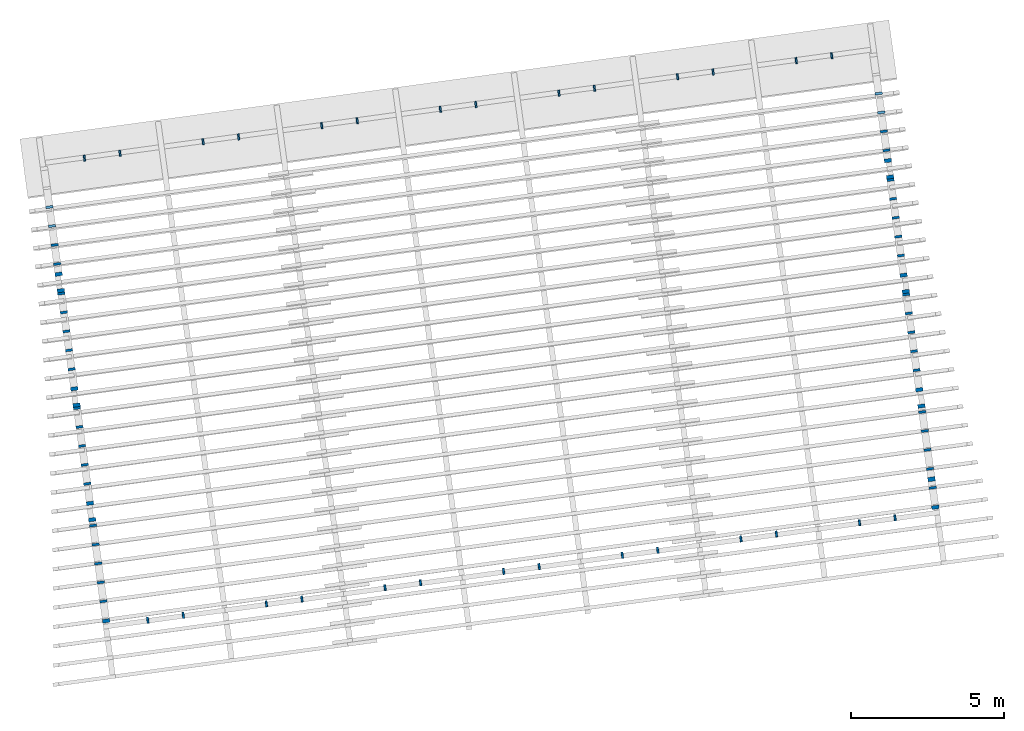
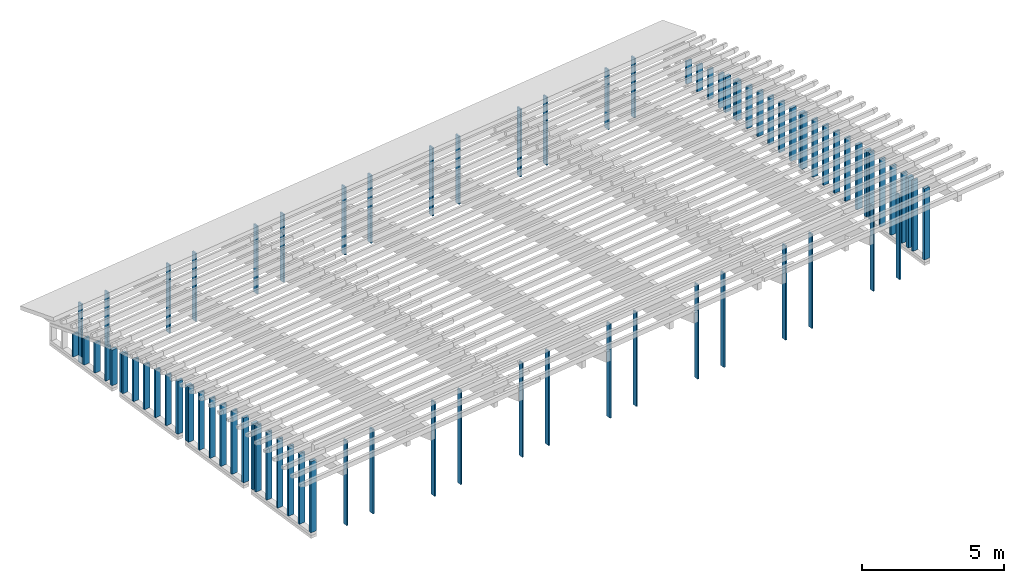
# One storey, part 1 of 18: 81 columns.
"""IFC2X3 building model written with IfcOpenShell, lengths in metres."""

import ifcopenshell
import ifcopenshell.guid

model = None  # the IFC model being written
_history = None  # IfcOwnerHistory: only IFC2X3 demands one
_inside = {}  # id of a spatial element -> (the spatial element, [elements in it])
_under = {}  # id of a project, library or spatial element -> (it, [spatial elements below it])
_declared = {}  # id of a project -> (the project, [libraries it declares])
_typed = {}  # id of a type object -> (the type object, [elements of that type])
_made_of = {}  # id of a material, layer set ... -> (it, [elements and type objects made of it])


def new_model(schema):
    """Start an empty IFC model of exactly this schema.

    Asked for "IFC4X3", IfcOpenShell would pick the latest addendum, in which some entities
    have other attributes; the version numbers below select the first issue.
    IFC2X3 requires an IfcOwnerHistory on every rooted entity: one is made here for all.
    """
    global model, _history
    if schema == "IFC4X3":
        model = ifcopenshell.file(schema_version=(4, 3, 0, 0))
    else:
        model = ifcopenshell.file(schema=schema)
    _inside.clear()
    _under.clear()
    _declared.clear()
    _typed.clear()
    _made_of.clear()
    _history = None
    if model.schema == "IFC2X3":
        org = make("IfcOrganization", Name="unknown")
        user = make(
            "IfcPersonAndOrganization",
            ThePerson=make("IfcPerson", FamilyName="unknown"),
            TheOrganization=org,
        )
        app = make(
            "IfcApplication",
            ApplicationDeveloper=org,
            Version="unknown",
            ApplicationFullName="unknown",
            ApplicationIdentifier="unknown",
        )
        _history = make(
            "IfcOwnerHistory",
            OwningUser=user,
            OwningApplication=app,
            ChangeAction="ADDED",
            CreationDate=0,
        )
    return model


def make(cls, **values):
    """One entity of the class cls with the attributes given. An attribute that is None is left unset."""
    return model.create_entity(
        cls, **{name: value for name, value in values.items() if value is not None}
    )


def entity(cls, *values):
    """Any entity or typed value of the class cls, its attributes in the order of the schema. None: left unset."""
    e = model.create_entity(cls)
    for i, value in enumerate(values):
        if value is not None:
            e[i] = value
    return e


def rooted(cls, **values):
    """An entity with a GlobalId (a new one), such as an element, a storey or a relation."""
    return make(cls, GlobalId=ifcopenshell.guid.new(), OwnerHistory=_history, **values)


def si_unit(unit_type, name, prefix=None):
    """IfcSIUnit, for example si_unit("LENGTHUNIT", "METRE", prefix="MILLI")."""
    return make("IfcSIUnit", UnitType=unit_type, Prefix=prefix, Name=name)


def converted_unit(unit_type, name, factor, base, dimensions=None, offset=None):
    """IfcConversionBasedUnit, such as the inch: factor (a typed value) times the base unit."""
    return make(
        "IfcConversionBasedUnit"
        if offset is None
        else "IfcConversionBasedUnitWithOffset",
        ConversionOffset=offset,
        Dimensions=None
        if dimensions is None
        else entity("IfcDimensionalExponents", *dimensions),
        UnitType=unit_type,
        Name=name,
        ConversionFactor=make(
            "IfcMeasureWithUnit", ValueComponent=factor, UnitComponent=base
        ),
    )


def derived_unit(unit_type, elements):
    """IfcDerivedUnit: a product of units, each with its exponent."""
    return make(
        "IfcDerivedUnit",
        Elements=[
            make("IfcDerivedUnitElement", Unit=unit, Exponent=power)
            for unit, power in elements
        ],
        UnitType=unit_type,
    )


def money_unit(currency):
    """IfcMonetaryUnit."""
    return make("IfcMonetaryUnit", Currency=currency)


def assignment(units):
    """IfcUnitAssignment: the units of a project."""
    return None if units is None else make("IfcUnitAssignment", Units=units)


def point(xyz):
    """IfcCartesianPoint."""
    return None if xyz is None else make("IfcCartesianPoint", Coordinates=xyz)


def direction(xyz):
    """IfcDirection."""
    return None if xyz is None else make("IfcDirection", DirectionRatios=xyz)


def frame(location, z_axis=None, x_axis=None):
    """IfcAxis2Placement3D, a coordinate frame: its origin and axes. An axis left out is left unset."""
    return make(
        "IfcAxis2Placement3D",
        Location=point(location),
        Axis=direction(z_axis),
        RefDirection=direction(x_axis),
    )


def frame_2d(location, x_axis=None):
    """IfcAxis2Placement2D, a coordinate frame in the plane: its origin and x axis."""
    return make(
        "IfcAxis2Placement2D", Location=point(location), RefDirection=direction(x_axis)
    )


def origin_with_axes():
    """The frame at (0, 0, 0) with the z axis (0, 0, 1) and the x axis (1, 0, 0) written out."""
    return frame((0.0, 0.0, 0.0), z_axis=(0.0, 0.0, 1.0), x_axis=(1.0, 0.0, 0.0))


def origin_2d_with_axis():
    """The frame at (0, 0) in the plane with the x axis (1, 0) written out."""
    return frame_2d((0.0, 0.0), x_axis=(1.0, 0.0))


def place(relative_to, where):
    """IfcLocalPlacement: puts the frame where relative to a parent placement (None: the world)."""
    return make(
        "IfcLocalPlacement", PlacementRelTo=relative_to, RelativePlacement=where
    )


def context(
    kind, dimensions, precision=None, world=None, true_north=None, identifier=None
):
    """IfcGeometricRepresentationContext, for example the 3D "Model" context."""
    return make(
        "IfcGeometricRepresentationContext",
        ContextIdentifier=identifier,
        ContextType=kind,
        CoordinateSpaceDimension=dimensions,
        Precision=precision,
        WorldCoordinateSystem=world,
        TrueNorth=true_north,
    )


def subcontext(parent, identifier, kind, view, scale=None):
    """IfcGeometricRepresentationSubContext, for example "Body" below "Model"."""
    return make(
        "IfcGeometricRepresentationSubContext",
        ContextIdentifier=identifier,
        ContextType=kind,
        ParentContext=parent,
        TargetScale=scale,
        TargetView=view,
    )


def project(units=None, contexts=None):
    """IfcProject with its units and contexts."""
    return rooted(
        "IfcProject",
        Name="project",
        RepresentationContexts=contexts,
        UnitsInContext=assignment(units),
    )


def spatial(cls, under=None, at=None, **own):
    """A site, building, storey or space (cls), placed at a placement, below another one or the project."""
    s = rooted(cls, ObjectPlacement=at, **own)
    if under is not None:
        _under.setdefault(under.id(), (under, []))[1].append(s)
    return s


def profile(cls, at=None, kind="AREA", **sizes):
    """A parametric profile (cls). Its sizes go by their IFC names, for example OverallWidth=200.0."""
    return make(cls, ProfileType=kind, Position=at, **sizes)


def rectangle(**sizes):
    """IfcRectangleProfileDef."""
    return profile("IfcRectangleProfileDef", **sizes)


def extrude(swept, where, along, depth):
    """IfcExtrudedAreaSolid: the profile swept, set in the frame where, extruded along a direction by depth."""
    return make(
        "IfcExtrudedAreaSolid",
        SweptArea=swept,
        Position=where,
        ExtrudedDirection=direction(along),
        Depth=depth,
    )


def shape(context_of_items, identifier, shape_type, items):
    """IfcShapeRepresentation: the items that make up one representation, for example the "Body"."""
    return make(
        "IfcShapeRepresentation",
        ContextOfItems=context_of_items,
        RepresentationIdentifier=identifier,
        RepresentationType=shape_type,
        Items=items,
    )


def material(Name=None, Category=None):
    """IfcMaterial."""
    return make("IfcMaterial", Name=Name, Category=Category)


def made_of(thing, what):
    """Note that an element or type object is made of a material, layer set ...; save() writes the relation."""
    if what is not None:
        _made_of.setdefault(what.id(), (what, []))[1].append(thing)
    return thing


def type_object(cls, material=None, **own):
    """A type object (cls), such as IfcWallType, which elements share."""
    return made_of(rooted(cls, **own), material)


def element(
    cls,
    number,
    at=None,
    inside=None,
    cuts=None,
    type_object=None,
    material=None,
    context=None,
    identifier="Body",
    shape_type=None,
    held_by="IfcProductDefinitionShape",
    body=None,
    shapes=None,
    **own,
):
    """One element of the class cls, such as IfcWall. Its Tag is "e" and its number.

    at: its placement. inside: the storey or other place that contains it. cuts: it is an
    opening in that element (IfcRelVoidsElement). A single representation is given by context,
    identifier, shape_type and body (its items); several are given by shapes. held_by: the class
    of the entity that holds the representations. save() writes the other relations.
    """
    e = rooted(cls, Tag="e%d" % number, ObjectPlacement=at, **own)
    if body is not None:
        shapes = [shape(context, identifier, shape_type, body)]
    if shapes is not None:
        e.Representation = make(held_by, Representations=shapes)
    if inside is not None:
        _inside.setdefault(inside.id(), (inside, []))[1].append(e)
    if cuts is not None:
        rooted(
            "IfcRelVoidsElement", RelatingBuildingElement=cuts, RelatedOpeningElement=e
        )
    if type_object is not None:
        _typed.setdefault(type_object.id(), (type_object, []))[1].append(e)
    return made_of(e, material)


def aggregate(whole, parts):
    """IfcRelAggregates: a whole, such as a stair, and the parts it consists of."""
    return rooted("IfcRelAggregates", RelatingObject=whole, RelatedObjects=parts)


def save(model, path):
    """Write the relations noted so far, then the file.

    IfcRelAggregates (storeys below a building ...), IfcRelContainedInSpatialStructure (elements
    in a storey), IfcRelDefinesByType, IfcRelAssociatesMaterial and IfcRelDeclares: one each for
    every whole, place, type object, material and project.
    """
    for whole, parts in _under.values():
        aggregate(whole, parts)
    for where, things in _inside.values():
        rooted(
            "IfcRelContainedInSpatialStructure",
            RelatedElements=things,
            RelatingStructure=where,
        )
    for kind, things in _typed.values():
        rooted("IfcRelDefinesByType", RelatedObjects=things, RelatingType=kind)
    for what, things in _made_of.values():
        rooted("IfcRelAssociatesMaterial", RelatedObjects=things, RelatingMaterial=what)
    for by, libraries in _declared.values():
        rooted("IfcRelDeclares", RelatingContext=by, RelatedDefinitions=libraries)
    model.write(path)


model = new_model("IFC2X3")

# Units and contexts
model_context = context("Model", 3, precision=1e-05, world=origin_with_axes(), true_north=direction((0.0, 1.0)))
body_context = subcontext(model_context, "Body", "Model", "MODEL_VIEW")
ifc_project = project(units=[si_unit("LENGTHUNIT", "METRE"), si_unit("AREAUNIT", "SQUARE_METRE"), si_unit("VOLUMEUNIT", "CUBIC_METRE"), converted_unit("PLANEANGLEUNIT", "DEGREE", entity("IfcPlaneAngleMeasure", 0.0174532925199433), si_unit("PLANEANGLEUNIT", "RADIAN"), dimensions=[0, 0, 0, 0, 0, 0, 0]), money_unit("EUR"), converted_unit("TIMEUNIT", "Year", entity("IfcTimeMeasure", 31557600.0), si_unit("TIMEUNIT", "SECOND"), dimensions=[0, 0, 1, 0, 0, 0, 0]), si_unit("MASSUNIT", "GRAM", prefix="KILO"), si_unit("THERMODYNAMICTEMPERATUREUNIT", "DEGREE_CELSIUS"), si_unit("LUMINOUSINTENSITYUNIT", "LUMEN"), si_unit("ENERGYUNIT", "JOULE", prefix="MEGA"), derived_unit("THERMALCONDUCTANCEUNIT", [(si_unit("POWERUNIT", "WATT"), 1), (si_unit("LENGTHUNIT", "METRE"), -1), (si_unit("THERMODYNAMICTEMPERATUREUNIT", "KELVIN"), -1)]), derived_unit("SPECIFICHEATCAPACITYUNIT", [(si_unit("ENERGYUNIT", "JOULE"), 1), (si_unit("MASSUNIT", "GRAM", prefix="KILO"), -1), (si_unit("THERMODYNAMICTEMPERATUREUNIT", "KELVIN"), -1)]), derived_unit("MASSDENSITYUNIT", [(si_unit("MASSUNIT", "GRAM", prefix="KILO"), 1), (si_unit("VOLUMEUNIT", "CUBIC_METRE"), -1)])], contexts=[model_context])

# Site, building, storey
site_placement = place(None, origin_with_axes())
site = spatial("IfcSite", under=ifc_project, at=site_placement, Name="Gelände", CompositionType="ELEMENT")
building_placement = place(site_placement, origin_with_axes())
building = spatial("IfcBuilding", under=site, at=building_placement, Name="Gebäude", CompositionType="ELEMENT")
storey_placement = place(building_placement, frame((0.0, 0.0, 5.5), z_axis=(0.0, 0.0, 1.0), x_axis=(1.0, 0.0, 0.0)))
storey = spatial("IfcBuildingStorey", under=building, at=storey_placement, Name="OG", CompositionType="ELEMENT", Elevation=5.5)

# Columns
ifc_material = material(Name="Bauholz")
column_type_1 = type_object("IfcColumnType", Name="Bauholz 80 x 240", PredefinedType="NOTDEFINED")
column_1_placement = place(storey_placement, frame((86.13448157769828, -147.6813171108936, 1.071999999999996), z_axis=(0.0, 0.0, 1.0), x_axis=(0.1357111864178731, -0.9907484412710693, 0.0)))
element("IfcColumn", 1, at=column_1_placement, inside=storey, type_object=column_type_1, material=ifc_material, Name="Stütze-018", context=body_context, shape_type="SweptSolid", body=[
    extrude(rectangle(XDim=0.08, YDim=0.24, at=origin_2d_with_axis()), origin_with_axes(), (0.0, 0.0, 1.0), 2.858970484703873),
])
column_2_placement = place(storey_placement, frame((86.30412056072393, -148.9197526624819, 1.071999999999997), z_axis=(0.0, 0.0, 1.0), x_axis=(0.1357111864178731, -0.9907484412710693, 0.0)))
element("IfcColumn", 2, at=column_2_placement, inside=storey, type_object=column_type_1, material=ifc_material, Name="Stütze-018", context=body_context, shape_type="SweptSolid", body=[
    extrude(rectangle(XDim=0.08, YDim=0.24, at=origin_2d_with_axis()), origin_with_axes(), (0.0, 0.0, 1.0), 2.958234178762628),
])
column_3_placement = place(storey_placement, frame((86.47375954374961, -150.1581882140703, 1.071999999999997), z_axis=(0.0, 0.0, 1.0), x_axis=(0.1357111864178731, -0.9907484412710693, 0.0)))
element("IfcColumn", 3, at=column_3_placement, inside=storey, type_object=column_type_1, material=ifc_material, Name="Stütze-018", context=body_context, shape_type="SweptSolid", body=[
    extrude(rectangle(XDim=0.08, YDim=0.24, at=origin_2d_with_axis()), origin_with_axes(), (0.0, 0.0, 1.0), 3.033627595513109),
])
column_4_placement = place(storey_placement, frame((86.38894005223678, -149.5389704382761, 1.071999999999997), z_axis=(0.0, 0.0, 1.0), x_axis=(0.1357111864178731, -0.9907484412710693, 0.0)))
element("IfcColumn", 4, at=column_4_placement, inside=storey, type_object=column_type_1, material=ifc_material, Name="Stütze-018", context=body_context, shape_type="SweptSolid", body=[
    extrude(rectangle(XDim=0.08, YDim=0.24, at=origin_2d_with_axis()), origin_with_axes(), (0.0, 0.0, 1.0), 2.998924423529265),
])
column_5_placement = place(storey_placement, frame((86.21930106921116, -148.3005348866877, 1.071999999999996), z_axis=(0.0, 0.0, 1.0), x_axis=(0.1357111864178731, -0.9907484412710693, 0.0)))
element("IfcColumn", 5, at=column_5_placement, inside=storey, type_object=column_type_1, material=ifc_material, Name="Stütze-018", context=body_context, shape_type="SweptSolid", body=[
    extrude(rectangle(XDim=0.08, YDim=0.24, at=origin_2d_with_axis()), origin_with_axes(), (0.0, 0.0, 1.0), 2.911588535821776),
])
column_6_placement = place(storey_placement, frame((112.5450522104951, -138.8554543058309, 1.071999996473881), z_axis=(0.0, 0.0, 1.0), x_axis=(0.1357111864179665, -0.9907484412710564, 0.0)))
element("IfcColumn", 6, at=column_6_placement, inside=storey, type_object=column_type_1, material=ifc_material, Name="Stütze-018", context=body_context, shape_type="SweptSolid", body=[
    extrude(rectangle(XDim=0.08, YDim=0.24, at=origin_2d_with_axis()), origin_with_axes(), (0.0, 0.0, 1.0), 2.171153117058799),
])
column_7_placement = place(storey_placement, frame((85.2645728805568, -141.3306196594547, 1.071999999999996), z_axis=(0.0, 0.0, 1.0), x_axis=(0.1357111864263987, -0.9907484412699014, 0.0)))
element("IfcColumn", 7, at=column_7_placement, inside=storey, type_object=column_type_1, material=ifc_material, Name="Stütze-018", context=body_context, shape_type="SweptSolid", body=[
    extrude(rectangle(XDim=0.08, YDim=0.24, at=origin_2d_with_axis()), origin_with_axes(), (0.0, 0.0, 1.0), 1.93517910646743),
])
column_8_placement = place(storey_placement, frame((85.3493923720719, -141.9498374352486, 1.071999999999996), z_axis=(0.0, 0.0, 1.0), x_axis=(0.1357111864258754, -0.9907484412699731, 0.0)))
element("IfcColumn", 8, at=column_8_placement, inside=storey, type_object=column_type_1, material=ifc_material, Name="Stütze-018", context=body_context, shape_type="SweptSolid", body=[
    extrude(rectangle(XDim=0.08, YDim=0.24, at=origin_2d_with_axis()), origin_with_axes(), (0.0, 0.0, 1.0), 2.05641840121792),
])
column_9_placement = place(storey_placement, frame((85.43421186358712, -142.5690552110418, 1.071999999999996), z_axis=(0.0, 0.0, 1.0), x_axis=(0.1357111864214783, -0.9907484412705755, 0.0)))
element("IfcColumn", 9, at=column_9_placement, inside=storey, type_object=column_type_1, material=ifc_material, Name="Stütze-018", context=body_context, shape_type="SweptSolid", body=[
    extrude(rectangle(XDim=0.08, YDim=0.24, at=origin_2d_with_axis()), origin_with_axes(), (0.0, 0.0, 1.0), 2.171153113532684),
])
column_10_placement = place(storey_placement, frame((111.9887720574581, -134.7943764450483, 1.071999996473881), z_axis=(0.0, 0.0, 1.0), x_axis=(-0.1357111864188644, 0.9907484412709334, 0.0)))
element("IfcColumn", 10, at=column_10_placement, inside=storey, type_object=column_type_1, material=ifc_material, Name="Stütze-018", context=body_context, shape_type="SweptSolid", body=[
    extrude(rectangle(XDim=0.08, YDim=0.24, at=origin_2d_with_axis()), origin_with_axes(), (0.0, 0.0, 1.0), 1.297265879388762),
])
column_11_placement = place(storey_placement, frame((112.2905937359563, -136.9978009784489, 1.071999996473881), z_axis=(0.0, 0.0, 1.0), x_axis=(0.1357111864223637, -0.9907484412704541, 0.0)))
element("IfcColumn", 11, at=column_11_placement, inside=storey, type_object=column_type_1, material=ifc_material, Name="Stütze-018", context=body_context, shape_type="SweptSolid", body=[
    extrude(rectangle(XDim=0.08, YDim=0.24, at=origin_2d_with_axis()), origin_with_axes(), (0.0, 0.0, 1.0), 1.807394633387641),
])
column_12_placement = place(storey_placement, frame((112.4602327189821, -138.2362365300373, 1.071999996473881), z_axis=(0.0, 0.0, 1.0), x_axis=(0.1357111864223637, -0.9907484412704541, 0.0)))
element("IfcColumn", 12, at=column_12_placement, inside=storey, type_object=column_type_1, material=ifc_material, Name="Stütze-018", context=body_context, shape_type="SweptSolid", body=[
    extrude(rectangle(XDim=0.08, YDim=0.24, at=origin_2d_with_axis()), origin_with_axes(), (0.0, 0.0, 1.0), 2.056418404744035),
])
column_13_placement = place(storey_placement, frame((111.9039525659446, -134.1751586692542, 1.071999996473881), z_axis=(0.0, 0.0, 1.0), x_axis=(-0.1357111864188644, 0.9907484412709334, 0.0)))
element("IfcColumn", 13, at=column_13_placement, inside=storey, type_object=column_type_1, material=ifc_material, Name="Stütze-018", context=body_context, shape_type="SweptSolid", body=[
    extrude(rectangle(XDim=0.08, YDim=0.24, at=origin_2d_with_axis()), origin_with_axes(), (0.0, 0.0, 1.0), 1.137906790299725),
])
column_14_placement = place(storey_placement, frame((111.8191330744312, -133.5559408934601, 1.071999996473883), z_axis=(0.0, 0.0, 1.0), x_axis=(-0.1357111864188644, 0.9907484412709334, 0.0)))
element("IfcColumn", 14, at=column_14_placement, inside=storey, type_object=column_type_1, material=ifc_material, Name="Stütze-018", context=body_context, shape_type="SweptSolid", body=[
    extrude(rectangle(XDim=0.08, YDim=0.24, at=origin_2d_with_axis()), origin_with_axes(), (0.0, 0.0, 1.0), 0.970996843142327),
])
column_15_placement = place(storey_placement, frame((85.09561245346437, -140.0971378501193, 1.071999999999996), z_axis=(0.0, 0.0, 1.0), x_axis=(0.1357111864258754, -0.9907484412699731, 0.0)))
element("IfcColumn", 15, at=column_15_placement, inside=storey, type_object=column_type_1, material=ifc_material, Name="Stütze-018", context=body_context, shape_type="SweptSolid", body=[
    extrude(rectangle(XDim=0.08, YDim=0.24, at=origin_2d_with_axis()), origin_with_axes(), (0.0, 0.0, 1.0), 1.674132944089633),
])
column_16_placement = place(storey_placement, frame((112.0735915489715, -135.4135942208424, 1.071999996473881), z_axis=(0.0, 0.0, 1.0), x_axis=(-0.1357111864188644, 0.9907484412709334, 0.0)))
element("IfcColumn", 16, at=column_16_placement, inside=storey, type_object=column_type_1, material=ifc_material, Name="Stütze-018", context=body_context, shape_type="SweptSolid", body=[
    extrude(rectangle(XDim=0.08, YDim=0.24, at=origin_2d_with_axis()), origin_with_axes(), (0.0, 0.0, 1.0), 1.449052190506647),
])
column_17_placement = place(storey_placement, frame((85.1797533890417, -140.7114018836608, 1.071999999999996), z_axis=(0.0, 0.0, 1.0), x_axis=(0.1357111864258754, -0.9907484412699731, 0.0)))
element("IfcColumn", 17, at=column_17_placement, inside=storey, type_object=column_type_1, material=ifc_material, Name="Stütze-018", context=body_context, shape_type="SweptSolid", body=[
    extrude(rectangle(XDim=0.08, YDim=0.24, at=origin_2d_with_axis()), origin_with_axes(), (0.0, 0.0, 1.0), 1.807394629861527),
])
column_18_placement = place(storey_placement, frame((113.4997803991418, -145.8253695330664, 1.071999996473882), z_axis=(0.0, 0.0, 1.0), x_axis=(0.1357111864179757, -0.9907484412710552, 0.0)))
element("IfcColumn", 18, at=column_18_placement, inside=storey, type_object=column_type_1, material=ifc_material, Name="Stütze-018", context=body_context, shape_type="SweptSolid", body=[
    extrude(rectangle(XDim=0.08, YDim=0.24, at=origin_2d_with_axis()), origin_with_axes(), (0.0, 0.0, 1.0), 2.998924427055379),
])
column_19_placement = place(storey_placement, frame((113.5845998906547, -146.4445873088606, 1.071999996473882), z_axis=(0.0, 0.0, 1.0), x_axis=(0.1357111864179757, -0.9907484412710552, 0.0)))
element("IfcColumn", 19, at=column_19_placement, inside=storey, type_object=column_type_1, material=ifc_material, Name="Stütze-018", context=body_context, shape_type="SweptSolid", body=[
    extrude(rectangle(XDim=0.08, YDim=0.24, at=origin_2d_with_axis()), origin_with_axes(), (0.0, 0.0, 1.0), 3.033627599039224),
])
column_20_placement = place(storey_placement, frame((113.4149609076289, -145.2061517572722, 1.071999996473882), z_axis=(0.0, 0.0, 1.0), x_axis=(0.1357111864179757, -0.9907484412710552, 0.0)))
element("IfcColumn", 20, at=column_20_placement, inside=storey, type_object=column_type_1, material=ifc_material, Name="Stütze-018", context=body_context, shape_type="SweptSolid", body=[
    extrude(rectangle(XDim=0.08, YDim=0.24, at=origin_2d_with_axis()), origin_with_axes(), (0.0, 0.0, 1.0), 2.958234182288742),
])
column_21_placement = place(storey_placement, frame((113.3301414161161, -144.586933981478, 1.071999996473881), z_axis=(0.0, 0.0, 1.0), x_axis=(0.1357111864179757, -0.9907484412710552, 0.0)))
element("IfcColumn", 21, at=column_21_placement, inside=storey, type_object=column_type_1, material=ifc_material, Name="Stütze-018", context=body_context, shape_type="SweptSolid", body=[
    extrude(rectangle(XDim=0.08, YDim=0.24, at=origin_2d_with_axis()), origin_with_axes(), (0.0, 0.0, 1.0), 2.911588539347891),
])
column_22_placement = place(storey_placement, frame((113.2453219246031, -143.9677162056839, 1.071999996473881), z_axis=(0.0, 0.0, 1.0), x_axis=(0.1357111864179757, -0.9907484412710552, 0.0)))
element("IfcColumn", 22, at=column_22_placement, inside=storey, type_object=column_type_1, material=ifc_material, Name="Stütze-018", context=body_context, shape_type="SweptSolid", body=[
    extrude(rectangle(XDim=0.08, YDim=0.24, at=origin_2d_with_axis()), origin_with_axes(), (0.0, 0.0, 1.0), 2.858970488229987),
])
column_23_placement = place(storey_placement, frame((113.0580404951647, -142.6004834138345, 1.071999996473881), z_axis=(0.0, 0.0, 1.0), x_axis=(0.135711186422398, -0.9907484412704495, 0.0)))
element("IfcColumn", 23, at=column_23_placement, inside=storey, type_object=column_type_1, material=ifc_material, Name="Stütze-018", context=body_context, shape_type="SweptSolid", body=[
    extrude(rectangle(XDim=0.08, YDim=0.24, at=origin_2d_with_axis()), origin_with_axes(), (0.0, 0.0, 1.0), 2.71900334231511),
])
column_24_placement = place(storey_placement, frame((112.9732210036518, -141.9812656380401, 1.071999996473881), z_axis=(0.0, 0.0, 1.0), x_axis=(0.1357111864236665, -0.9907484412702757, 0.0)))
element("IfcColumn", 24, at=column_24_placement, inside=storey, type_object=column_type_1, material=ifc_material, Name="Stütze-018", context=body_context, shape_type="SweptSolid", body=[
    extrude(rectangle(XDim=0.08, YDim=0.24, at=origin_2d_with_axis()), origin_with_axes(), (0.0, 0.0, 1.0), 2.644557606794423),
])
column_25_placement = place(storey_placement, frame((112.8884015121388, -141.3620478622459, 1.071999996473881), z_axis=(0.0, 0.0, 1.0), x_axis=(0.1357111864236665, -0.9907484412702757, 0.0)))
element("IfcColumn", 25, at=column_25_placement, inside=storey, type_object=column_type_1, material=ifc_material, Name="Stütze-018", context=body_context, shape_type="SweptSolid", body=[
    extrude(rectangle(XDim=0.08, YDim=0.24, at=origin_2d_with_axis()), origin_with_axes(), (0.0, 0.0, 1.0), 2.563294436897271),
])
column_26_placement = place(storey_placement, frame((112.8035820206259, -140.7428300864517, 1.071999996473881), z_axis=(0.0, 0.0, 1.0), x_axis=(0.1357111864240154, -0.9907484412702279, 0.0)))
element("IfcColumn", 26, at=column_26_placement, inside=storey, type_object=column_type_1, material=ifc_material, Name="Stütze-018", context=body_context, shape_type="SweptSolid", body=[
    extrude(rectangle(XDim=0.08, YDim=0.24, at=origin_2d_with_axis()), origin_with_axes(), (0.0, 0.0, 1.0), 2.476031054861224),
])
column_27_placement = place(storey_placement, frame((112.3754132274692, -137.6170187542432, 1.071999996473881), z_axis=(0.0, 0.0, 1.0), x_axis=(0.135711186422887, -0.9907484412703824, 0.0)))
element("IfcColumn", 27, at=column_27_placement, inside=storey, type_object=column_type_1, material=ifc_material, Name="Stütze-018", context=body_context, shape_type="SweptSolid", body=[
    extrude(rectangle(XDim=0.08, YDim=0.24, at=origin_2d_with_axis()), origin_with_axes(), (0.0, 0.0, 1.0), 1.935179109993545),
])
column_28_placement = place(storey_placement, frame((84.87793171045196, -138.507977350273, 1.071999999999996), z_axis=(0.0, 0.0, 1.0), x_axis=(-0.1357111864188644, 0.9907484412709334, 0.0)))
element("IfcColumn", 28, at=column_28_placement, inside=storey, type_object=column_type_1, material=ifc_material, Name="Stütze-018", context=body_context, shape_type="SweptSolid", body=[
    extrude(rectangle(XDim=0.08, YDim=0.24, at=origin_2d_with_axis()), origin_with_axes(), (0.0, 0.0, 1.0), 1.297265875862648),
])
column_29_placement = place(storey_placement, frame((84.96275120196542, -139.1271951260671, 1.071999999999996), z_axis=(0.0, 0.0, 1.0), x_axis=(-0.1357111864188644, 0.9907484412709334, 0.0)))
element("IfcColumn", 29, at=column_29_placement, inside=storey, type_object=column_type_1, material=ifc_material, Name="Stütze-018", context=body_context, shape_type="SweptSolid", body=[
    extrude(rectangle(XDim=0.08, YDim=0.24, at=origin_2d_with_axis()), origin_with_axes(), (0.0, 0.0, 1.0), 1.449052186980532),
])
column_30_placement = place(storey_placement, frame((85.60860073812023, -143.8421669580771, 1.071999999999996), z_axis=(0.0, 0.0, 1.0), x_axis=(0.1357111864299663, -0.9907484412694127, 0.0)))
element("IfcColumn", 30, at=column_30_placement, inside=storey, type_object=column_type_1, material=ifc_material, Name="Stütze-018", context=body_context, shape_type="SweptSolid", body=[
    extrude(rectangle(XDim=0.08, YDim=0.24, at=origin_2d_with_axis()), origin_with_axes(), (0.0, 0.0, 1.0), 2.383524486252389),
])
column_31_placement = place(storey_placement, frame((85.8623806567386, -145.6948665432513, 1.071999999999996), z_axis=(0.0, 0.0, 1.0), x_axis=(0.1357111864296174, -0.9907484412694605, 0.0)))
element("IfcColumn", 31, at=column_31_placement, inside=storey, type_object=column_type_1, material=ifc_material, Name="Stütze-018", context=body_context, shape_type="SweptSolid", body=[
    extrude(rectangle(XDim=0.08, YDim=0.24, at=origin_2d_with_axis()), origin_with_axes(), (0.0, 0.0, 1.0), 2.644557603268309),
])
column_32_placement = place(storey_placement, frame((85.94720014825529, -146.3140843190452, 1.071999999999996), z_axis=(0.0, 0.0, 1.0), x_axis=(0.135711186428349, -0.9907484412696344, 0.0)))
element("IfcColumn", 32, at=column_32_placement, inside=storey, type_object=column_type_1, material=ifc_material, Name="Stütze-018", context=body_context, shape_type="SweptSolid", body=[
    extrude(rectangle(XDim=0.08, YDim=0.24, at=origin_2d_with_axis()), origin_with_axes(), (0.0, 0.0, 1.0), 2.719003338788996),
])
column_33_placement = place(storey_placement, frame((85.77756116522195, -145.0756487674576, 1.071999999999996), z_axis=(0.0, 0.0, 1.0), x_axis=(0.1357111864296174, -0.9907484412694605, 0.0)))
element("IfcColumn", 33, at=column_33_placement, inside=storey, type_object=column_type_1, material=ifc_material, Name="Stütze-018", context=body_context, shape_type="SweptSolid", body=[
    extrude(rectangle(XDim=0.08, YDim=0.24, at=origin_2d_with_axis()), origin_with_axes(), (0.0, 0.0, 1.0), 2.563294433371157),
])
column_34_placement = place(storey_placement, frame((85.69274167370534, -144.4564309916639, 1.071999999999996), z_axis=(0.0, 0.0, 1.0), x_axis=(0.1357111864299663, -0.9907484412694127, 0.0)))
element("IfcColumn", 34, at=column_34_placement, inside=storey, type_object=column_type_1, material=ifc_material, Name="Stütze-018", context=body_context, shape_type="SweptSolid", body=[
    extrude(rectangle(XDim=0.08, YDim=0.24, at=origin_2d_with_axis()), origin_with_axes(), (0.0, 0.0, 1.0), 2.476031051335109),
])
column_35_placement = place(storey_placement, frame((84.7931122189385, -137.8887595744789, 1.071999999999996), z_axis=(0.0, 0.0, 1.0), x_axis=(-0.1357111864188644, 0.9907484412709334, 0.0)))
element("IfcColumn", 35, at=column_35_placement, inside=storey, type_object=column_type_1, material=ifc_material, Name="Stütze-018", context=body_context, shape_type="SweptSolid", body=[
    extrude(rectangle(XDim=0.08, YDim=0.24, at=origin_2d_with_axis()), origin_with_axes(), (0.0, 0.0, 1.0), 1.137906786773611),
])
column_36_placement = place(storey_placement, frame((84.70829272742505, -137.2695417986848, 1.071999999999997), z_axis=(0.0, 0.0, 1.0), x_axis=(-0.1357111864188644, 0.9907484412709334, 0.0)))
element("IfcColumn", 36, at=column_36_placement, inside=storey, type_object=column_type_1, material=ifc_material, Name="Stütze-018", context=body_context, shape_type="SweptSolid", body=[
    extrude(rectangle(XDim=0.08, YDim=0.24, at=origin_2d_with_axis()), origin_with_axes(), (0.0, 0.0, 1.0), 0.9709968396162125),
])
column_37_placement = place(storey_placement, frame((112.7194410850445, -140.1285660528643, 1.071999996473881), z_axis=(0.0, 0.0, 1.0), x_axis=(0.1357111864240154, -0.9907484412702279, 0.0)))
element("IfcColumn", 37, at=column_37_placement, inside=storey, type_object=column_type_1, material=ifc_material, Name="Stütze-018", context=body_context, shape_type="SweptSolid", body=[
    extrude(rectangle(XDim=0.08, YDim=0.24, at=origin_2d_with_axis()), origin_with_axes(), (0.0, 0.0, 1.0), 2.383524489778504),
])
column_38_placement = place(storey_placement, frame((112.2064528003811, -136.3835369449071, 1.071999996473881), z_axis=(0.0, 0.0, 1.0), x_axis=(0.1357111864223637, -0.9907484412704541, 0.0)))
element("IfcColumn", 38, at=column_38_placement, inside=storey, type_object=column_type_1, material=ifc_material, Name="Stütze-018", context=body_context, shape_type="SweptSolid", body=[
    extrude(rectangle(XDim=0.08, YDim=0.24, at=origin_2d_with_axis()), origin_with_axes(), (0.0, 0.0, 1.0), 1.674132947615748),
])
column_type_2 = type_object("IfcColumnType", Name="Bauholz 120 x 240", PredefinedType="NOTDEFINED")
column_39_placement = place(storey_placement, frame((86.10801790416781, -147.4881212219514, 1.071999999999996), z_axis=(0.0, 0.0, 1.0), x_axis=(0.1357111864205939, -0.9907484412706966, 0.0)))
element("IfcColumn", 39, at=column_39_placement, inside=storey, type_object=column_type_2, material=ifc_material, Name="Stütze-018", context=body_context, shape_type="SweptSolid", body=[
    extrude(rectangle(XDim=0.12, YDim=0.24, at=origin_2d_with_axis()), origin_with_axes(), (0.0, 0.0, 1.0), 2.842380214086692),
])
column_40_placement = place(storey_placement, frame((86.5612932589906, -150.7972209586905, 1.071999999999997), z_axis=(0.0, 0.0, 1.0), x_axis=(0.1357111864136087, -0.9907484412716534, 0.0)))
element("IfcColumn", 40, at=column_40_placement, inside=storey, type_object=column_type_2, material=ifc_material, Name="Stütze-018", context=body_context, shape_type="SweptSolid", body=[
    extrude(rectangle(XDim=0.12, YDim=0.24, at=origin_2d_with_axis()), origin_with_axes(), (0.0, 0.0, 1.0), 3.061921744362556),
])
column_41_placement = place(storey_placement, frame((112.1928816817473, -136.2844621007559, 1.071999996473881), z_axis=(0.0, 0.0, 1.0), x_axis=(0.1357111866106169, -0.9907484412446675, 0.0)))
element("IfcColumn", 41, at=column_41_placement, inside=storey, type_object=column_type_2, material=ifc_material, Name="Stütze-018", context=body_context, shape_type="SweptSolid", body=[
    extrude(rectangle(XDim=0.12, YDim=0.24, at=origin_2d_with_axis()), origin_with_axes(), (0.0, 0.0, 1.0), 1.656215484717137),
])
column_42_placement = place(storey_placement, frame((85.08204133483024, -139.9980630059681, 1.071999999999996), z_axis=(0.0, 0.0, 1.0), x_axis=(0.1357111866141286, -0.9907484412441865, 0.0)))
element("IfcColumn", 42, at=column_42_placement, inside=storey, type_object=column_type_2, material=ifc_material, Name="Stütze-018", context=body_context, shape_type="SweptSolid", body=[
    extrude(rectangle(XDim=0.12, YDim=0.24, at=origin_2d_with_axis()), origin_with_axes(), (0.0, 0.0, 1.0), 1.656215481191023),
])
column_43_placement = place(storey_placement, frame((112.1195976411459, -135.7494579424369, 1.071999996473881), z_axis=(0.0, 0.0, 1.0), x_axis=(-0.1357111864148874, 0.9907484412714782, 0.0)))
element("IfcColumn", 43, at=column_43_placement, inside=storey, type_object=column_type_2, material=ifc_material, Name="Stütze-018", context=body_context, shape_type="SweptSolid", body=[
    extrude(rectangle(XDim=0.12, YDim=0.24, at=origin_2d_with_axis()), origin_with_axes(), (0.0, 0.0, 1.0), 1.533187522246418),
])
column_44_placement = place(storey_placement, frame((85.52174557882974, -143.2080879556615, 1.071999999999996), z_axis=(0.0, 0.0, 1.0), x_axis=(0.135711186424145, -0.9907484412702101, 0.0)))
element("IfcColumn", 44, at=column_44_placement, inside=storey, type_object=column_type_2, material=ifc_material, Name="Stütze-018", context=body_context, shape_type="SweptSolid", body=[
    extrude(rectangle(XDim=0.12, YDim=0.24, at=origin_2d_with_axis()), origin_with_axes(), (0.0, 0.0, 1.0), 2.283787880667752),
])
column_45_placement = place(storey_placement, frame((113.6721336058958, -147.0836200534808, 1.071999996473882), z_axis=(0.0, 0.0, 1.0), x_axis=(0.1357111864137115, -0.9907484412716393, 0.0)))
element("IfcColumn", 45, at=column_45_placement, inside=storey, type_object=column_type_2, material=ifc_material, Name="Stütze-018", context=body_context, shape_type="SweptSolid", body=[
    extrude(rectangle(XDim=0.12, YDim=0.24, at=origin_2d_with_axis()), origin_with_axes(), (0.0, 0.0, 1.0), 3.061921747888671),
])
column_46_placement = place(storey_placement, frame((113.2188582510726, -143.7745203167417, 1.071999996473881), z_axis=(0.0, 0.0, 1.0), x_axis=(0.1357111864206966, -0.9907484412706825, 0.0)))
element("IfcColumn", 46, at=column_46_placement, inside=storey, type_object=column_type_2, material=ifc_material, Name="Stütze-018", context=body_context, shape_type="SweptSolid", body=[
    extrude(rectangle(XDim=0.12, YDim=0.24, at=origin_2d_with_axis()), origin_with_axes(), (0.0, 0.0, 1.0), 2.842380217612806),
])
column_47_placement = place(storey_placement, frame((113.1455742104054, -143.2395161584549, 1.071999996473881), z_axis=(0.0, 0.0, 1.0), x_axis=(0.1357111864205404, -0.9907484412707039, 0.0)))
element("IfcColumn", 47, at=column_47_placement, inside=storey, type_object=column_type_2, material=ifc_material, Name="Stütze-018", context=body_context, shape_type="SweptSolid", body=[
    extrude(rectangle(XDim=0.12, YDim=0.24, at=origin_2d_with_axis()), origin_with_axes(), (0.0, 0.0, 1.0), 2.79020240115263),
])
column_48_placement = place(storey_placement, frame((112.705869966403, -140.0294912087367, 1.071999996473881), z_axis=(0.0, 0.0, 1.0), x_axis=(0.1357111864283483, -0.9907484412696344, 0.0)))
element("IfcColumn", 48, at=column_48_placement, inside=storey, type_object=column_type_2, material=ifc_material, Name="Stütze-018", context=body_context, shape_type="SweptSolid", body=[
    extrude(rectangle(XDim=0.12, YDim=0.24, at=origin_2d_with_axis()), origin_with_axes(), (0.0, 0.0, 1.0), 2.370902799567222),
])
column_49_placement = place(storey_placement, frame((112.6325859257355, -139.4944870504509, 1.071999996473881), z_axis=(0.0, 0.0, 1.0), x_axis=(0.1357111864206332, -0.9907484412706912, 0.0)))
element("IfcColumn", 49, at=column_49_placement, inside=storey, type_object=column_type_2, material=ifc_material, Name="Stütze-018", context=body_context, shape_type="SweptSolid", body=[
    extrude(rectangle(XDim=0.12, YDim=0.24, at=origin_2d_with_axis()), origin_with_axes(), (0.0, 0.0, 1.0), 2.283787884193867),
])
column_50_placement = place(storey_placement, frame((86.03473386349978, -146.953117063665, 1.071999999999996), z_axis=(0.0, 0.0, 1.0), x_axis=(0.1357111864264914, -0.9907484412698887, 0.0)))
element("IfcColumn", 50, at=column_50_placement, inside=storey, type_object=column_type_2, material=ifc_material, Name="Stütze-018", context=body_context, shape_type="SweptSolid", body=[
    extrude(rectangle(XDim=0.12, YDim=0.24, at=origin_2d_with_axis()), origin_with_axes(), (0.0, 0.0, 1.0), 2.790202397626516),
])
column_51_placement = place(storey_placement, frame((85.59502961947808, -143.7430921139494, 1.071999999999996), z_axis=(0.0, 0.0, 1.0), x_axis=(0.1357111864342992, -0.9907484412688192, 0.0)))
element("IfcColumn", 51, at=column_51_placement, inside=storey, type_object=column_type_2, material=ifc_material, Name="Stütze-018", context=body_context, shape_type="SweptSolid", body=[
    extrude(rectangle(XDim=0.12, YDim=0.24, at=origin_2d_with_axis()), origin_with_axes(), (0.0, 0.0, 1.0), 2.370902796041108),
])
column_52_placement = place(storey_placement, frame((85.00875729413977, -139.4630588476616, 1.071999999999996), z_axis=(0.0, 0.0, 1.0), x_axis=(-0.1357111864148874, 0.9907484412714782, 0.0)))
element("IfcColumn", 52, at=column_52_placement, inside=storey, type_object=column_type_2, material=ifc_material, Name="Stütze-018", context=body_context, shape_type="SweptSolid", body=[
    extrude(rectangle(XDim=0.12, YDim=0.24, at=origin_2d_with_axis()), origin_with_axes(), (0.0, 0.0, 1.0), 1.533187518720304),
])
column_type_3 = type_object("IfcColumnType", Name="Bauholz 140 x 240", PredefinedType="NOTDEFINED")
column_53_placement = place(storey_placement, frame((113.5463276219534, -146.1651837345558, 1.071999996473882), z_axis=(0.0, 0.0, 1.0), x_axis=(0.1357111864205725, -0.9907484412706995, 0.0)))
element("IfcColumn", 53, at=column_53_placement, inside=storey, type_object=column_type_3, material=ifc_material, Name="Stütze-018", context=body_context, shape_type="SweptSolid", body=[
    extrude(rectangle(XDim=0.140000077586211, YDim=0.24, at=origin_2d_with_axis()), origin_with_axes(), (0.0, 0.0, 1.0), 3.019969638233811),
])
column_type_4 = type_object("IfcColumnType", Name="Bauholz 60 x 200", PredefinedType="NOTDEFINED")
for number, where, z_axis, x_axis in (
    (54, (93.61100649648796, -134.6046899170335, -0.9639881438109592), (0.0, 0.0, 1.0), (0.990748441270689, 0.1357111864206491, 0.0)),
    (55, (94.77159752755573, -134.4457139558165, -0.9639881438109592), (0.0, 0.0, 1.0), (0.990748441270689, 0.1357111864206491, 0.0)),
    (56, (89.73293402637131, -135.1359022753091, -0.9639881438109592), (0.0, 0.0, 1.0), (0.990748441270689, 0.1357111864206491, 0.0)),
    (57, (90.89352505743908, -134.9769263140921, -0.9639881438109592), (0.0, 0.0, 1.0), (0.990748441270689, 0.1357111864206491, 0.0)),
    (58, (97.48907896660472, -134.0734775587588, -0.9639881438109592), (0.0, 0.0, 1.0), (0.990748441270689, 0.1357111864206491, 0.0)),
    (59, (102.5277424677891, -133.3832892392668, -0.9639881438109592), (0.0, 0.0, 1.0), (0.990748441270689, 0.1357111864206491, 0.0)),
    (60, (98.64966999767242, -133.9145015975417, -0.9639881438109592), (0.0, 0.0, 1.0), (0.990748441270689, 0.1357111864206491, 0.0)),
    (61, (101.3671514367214, -133.5422652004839, -0.9639881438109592), (0.0, 0.0, 1.0), (0.990748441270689, 0.1357111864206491, 0.0)),
    (62, (106.4058149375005, -132.8520768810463, -0.9639881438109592), (0.0, 0.0, 1.0), (0.990748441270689, 0.1357111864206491, 0.0)),
):
    element("IfcColumn", number, at=place(storey_placement, frame(where, z_axis=z_axis, x_axis=x_axis)), inside=storey, type_object=column_type_4, material=ifc_material, Name="Stütze-018", context=body_context, shape_type="SweptSolid", body=[
        extrude(rectangle(XDim=0.06, YDim=0.2, at=origin_2d_with_axis()), origin_with_axes(), (0.0, 0.0, 1.0), 2.930000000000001),
    ])
for number, where, z_axis, x_axis in (
    (63, (110.2838874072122, -132.320864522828, -0.608449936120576), (0.0, 0.0, 1.0), (0.990748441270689, 0.1357111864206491, 0.0)),
    (64, (109.1232963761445, -132.4798404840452, -0.608449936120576), (0.0, 0.0, 1.0), (0.990748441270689, 0.1357111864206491, 0.0)),
    (65, (87.01545258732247, -135.5081386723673, -0.608449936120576), (0.0, 0.0, 1.0), (0.990748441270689, 0.1357111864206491, 0.0)),
    (66, (85.85486155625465, -135.6671146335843, -0.608449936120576), (0.0, 0.0, 1.0), (0.990748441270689, 0.1357111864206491, 0.0)),
):
    element("IfcColumn", number, at=place(storey_placement, frame(where, z_axis=z_axis, x_axis=x_axis)), inside=storey, type_object=column_type_4, material=ifc_material, Name="Stütze-018", context=body_context, shape_type="SweptSolid", body=[
        extrude(rectangle(XDim=0.06, YDim=0.2, at=origin_2d_with_axis()), origin_with_axes(), (0.0, 0.0, 1.0), 2.574461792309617),
    ])
for number, where, z_axis, x_axis in (
    (67, (87.92418567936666, -150.7740468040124, 0.8739335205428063), (0.0, 0.0, 1.0), (0.9907483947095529, 0.1357115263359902, 0.0)),
    (68, (89.08477671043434, -150.6150708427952, 0.8739335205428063), (0.0, 0.0, 1.0), (0.9907483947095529, 0.1357115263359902, 0.0)),
    (69, (111.192620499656, -147.5867726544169, 0.8739335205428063), (0.0, 0.0, 1.0), (0.9907483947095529, 0.1357115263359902, 0.0)),
    (70, (112.3532115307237, -147.4277966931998, 0.8739335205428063), (0.0, 0.0, 1.0), (0.9907483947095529, 0.1357115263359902, 0.0)),
):
    element("IfcColumn", number, at=place(storey_placement, frame(where, z_axis=z_axis, x_axis=x_axis)), inside=storey, type_object=column_type_4, material=ifc_material, Name="Stütze-018", context=body_context, shape_type="SweptSolid", body=[
        extrude(rectangle(XDim=0.06, YDim=0.2, at=origin_2d_with_axis()), origin_with_axes(), (0.0, 0.0, 1.0), 3.635),
    ])
column_54_placement = place(storey_placement, frame((91.80225815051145, -150.2428344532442, 0.4539335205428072), z_axis=(0.0, 0.0, 1.0), x_axis=(0.9907483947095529, 0.1357115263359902, 0.0)))
element("IfcColumn", 71, at=column_54_placement, inside=storey, type_object=column_type_4, material=ifc_material, Name="Stütze-018", context=body_context, shape_type="SweptSolid", body=[
    extrude(rectangle(XDim=0.06, YDim=0.2, at=origin_2d_with_axis()), origin_with_axes(), (0.0, 0.0, 1.0), 4.054999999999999),
])
column_55_placement = place(storey_placement, frame((95.68033061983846, -149.7116220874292, 0.4539335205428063), z_axis=(0.0, 0.0, 1.0), x_axis=(0.9907483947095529, 0.1357115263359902, 0.0)))
element("IfcColumn", 72, at=column_55_placement, inside=storey, type_object=column_type_4, material=ifc_material, Name="Stütze-018", context=body_context, shape_type="SweptSolid", body=[
    extrude(rectangle(XDim=0.06, YDim=0.2, at=origin_2d_with_axis()), origin_with_axes(), (0.0, 0.0, 1.0), 4.055),
])
column_56_placement = place(storey_placement, frame((99.55840308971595, -149.1804097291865, 0.4539335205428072), z_axis=(0.0, 0.0, 1.0), x_axis=(0.9907483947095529, 0.1357115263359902, 0.0)))
element("IfcColumn", 73, at=column_56_placement, inside=storey, type_object=column_type_4, material=ifc_material, Name="Stütze-018", context=body_context, shape_type="SweptSolid", body=[
    extrude(rectangle(XDim=0.06, YDim=0.2, at=origin_2d_with_axis()), origin_with_axes(), (0.0, 0.0, 1.0), 4.054999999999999),
])
column_57_placement = place(storey_placement, frame((105.2452239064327, -133.0110528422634, -0.9639881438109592), z_axis=(0.0, 0.0, 1.0), x_axis=(0.990748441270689, 0.1357111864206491, 0.0)))
element("IfcColumn", 74, at=column_57_placement, inside=storey, type_object=column_type_4, material=ifc_material, Name="Stütze-018", context=body_context, shape_type="SweptSolid", body=[
    extrude(rectangle(XDim=0.06, YDim=0.2, at=origin_2d_with_axis()), origin_with_axes(), (0.0, 0.0, 1.0), 2.930000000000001),
])
for number, where, z_axis, x_axis in (
    (75, (96.8409216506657, -149.5526461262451, 0.4539335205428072), (0.0, 0.0, 1.0), (0.9907483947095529, 0.1357115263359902, 0.0)),
    (76, (100.7189941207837, -149.0214337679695, 0.4539335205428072), (0.0, 0.0, 1.0), (0.9907483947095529, 0.1357115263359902, 0.0)),
    (77, (104.5970665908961, -148.4902214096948, 0.4539335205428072), (0.0, 0.0, 1.0), (0.9907483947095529, 0.1357115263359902, 0.0)),
    (78, (108.4751390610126, -147.9590090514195, 0.4539335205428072), (0.0, 0.0, 1.0), (0.9907483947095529, 0.1357115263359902, 0.0)),
    (79, (92.96284918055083, -150.0838584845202, 0.4539335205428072), (0.0, 0.0, 1.0), (0.9907483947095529, 0.1357115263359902, 0.0)),
    (80, (107.3145480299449, -148.1179850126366, 0.4539335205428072), (0.0, 0.0, 1.0), (0.9907483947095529, 0.1357115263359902, 0.0)),
    (81, (103.4364755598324, -148.6491973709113, 0.4539335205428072), (0.0, 0.0, 1.0), (0.9907483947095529, 0.1357115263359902, 0.0)),
):
    element("IfcColumn", number, at=place(storey_placement, frame(where, z_axis=z_axis, x_axis=x_axis)), inside=storey, type_object=column_type_4, material=ifc_material, Name="Stütze-018", context=body_context, shape_type="SweptSolid", body=[
        extrude(rectangle(XDim=0.06, YDim=0.2, at=origin_2d_with_axis()), origin_with_axes(), (0.0, 0.0, 1.0), 4.054999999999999),
    ])

save(model, "model.ifc")
